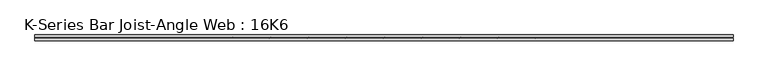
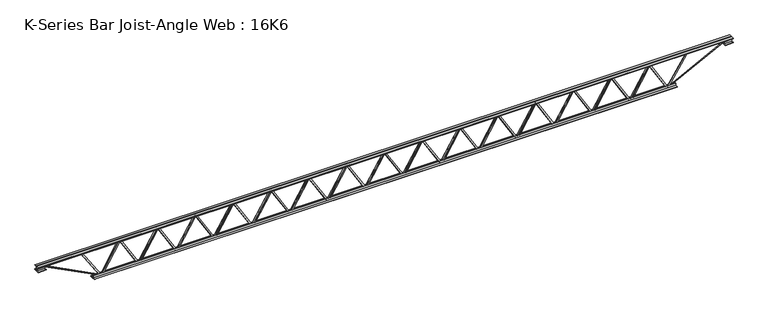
"""IFC4 building model written with IfcOpenShell, lengths in millimetres: beam geometry, K-Series Bar Joist-Angle Web : 16K6."""

from ifc_helpers import new_model, si_unit, frame, origin, place, context, project, spatial, polyline, outline, extrude, faceted_brep, source, transform, mapped, element, save


def k_series_bar_joist_angle_web_16k6_513a071d(model_context):
    return source(origin(), model_context, "Body", "SolidModel", [
        extrude(outline(polyline([(-4.75, 4.7625), (-4.75, 0.0), (-17.45, 0.0), (-17.45, 4.7625), (-4.75, 4.7625)])), frame((3089.537698, 0.0, -164.9), z_axis=(-0.5129581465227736, 0.0, 0.8584136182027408), x_axis=(0.0, -1.0, 0.0)), (0.0, 0.0, 1.0), 384.1970735),
        extrude(outline(polyline([(-199.825, 3122.1619048), (-180.775, 3122.1619048), (-180.775, 3121.2161453), (199.825, 2893.7828119), (199.825, 2875.6785714), (180.775, 2875.6785714), (180.775, 2882.9743309), (-199.825, 3110.4076642), (-199.825, 3122.1619048)])), frame((0.0, 0.0, 0.0), z_axis=(0.0, 1.0, 0.0), x_axis=(0.0, 0.0, 1.0)), (0.0, 0.0, 1.0), 4.75),
        faceted_brep([(2641.8952381, 0.0, -180.775), (2641.8952381, 0.0, -199.825), (2641.8952381, -4.75, -199.825), (2641.8952381, -4.75, -180.775), (2642.8409976, 0.0, -180.775), (2870.2743309, 0.0, 199.825), (2888.3785714, 0.0, 199.825), (2888.3785714, 0.0, 180.775), (2881.0828119, 0.0, 180.775), (2653.6494786, 0.0, -199.825), (2653.6494786, -4.75, -199.825), (2674.5194449, -4.75, -164.9), (2670.43125, -4.75, -162.4570368), (2867.5082688, -4.75, 167.3429632), (2871.5964636, -4.75, 164.9), (2881.0828119, -4.75, 180.775), (2888.3785714, -4.75, 180.775), (2888.3785714, -4.75, 199.825), (2870.2743309, -4.75, 199.825), (2642.8409976, -4.75, -180.775), (2871.5964636, -17.4625, 164.9), (2674.5194449, -17.4625, -164.9), (2670.43125, -17.4625, -162.4570368), (2867.5082688, -17.4625, 167.3429632)], [[[0, 1, 2, 3]], [[1, 0, 4, 5, 6, 7, 8, 9]], [[2, 1, 9, 10]], [[3, 2, 10, 11, 12, 13, 14, 15, 16, 17, 18, 19]], [[0, 3, 19, 4]], [[9, 8, 15, 14, 20, 21, 11, 10]], [[5, 4, 19, 18]], [[7, 6, 17, 16]], [[8, 7, 16, 15]], [[6, 5, 18, 17]], [[21, 22, 12, 11]], [[20, 14, 13, 23]], [[22, 21, 20, 23]], [[12, 22, 23, 13]]]),
        extrude(outline(polyline([(-4.75, 4.7625001), (-4.75, 0.0), (-17.45, 0.0), (-17.45, 4.7625001), (-4.75, 4.7625001)])), frame((2609.1996027, 0.0, -164.9), z_axis=(-0.5129581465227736, 0.0, 0.8584136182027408), x_axis=(0.0, -1.0, 0.0)), (0.0, 0.0, 1.0), 384.1970735),
        extrude(outline(polyline([(-199.825, 2641.8238095), (-180.775, 2641.8238095), (-180.775, 2640.87805), (199.825, 2413.4447167), (199.825, 2395.3404762), (180.775, 2395.3404762), (180.775, 2402.6362357), (-199.825, 2630.069569), (-199.825, 2641.8238095)])), frame((0.0, 0.0, 0.0), z_axis=(0.0, 1.0, 0.0), x_axis=(0.0, 0.0, 1.0)), (0.0, 0.0, 1.0), 4.75),
        faceted_brep([(2161.5571429, 0.0, -180.775), (2161.5571429, 0.0, -199.825), (2161.5571429, -4.75, -199.825), (2161.5571429, -4.75, -180.775), (2162.5029023, 0.0, -180.775), (2389.9362357, 0.0, 199.825), (2408.0404762, 0.0, 199.825), (2408.0404762, 0.0, 180.775), (2400.7447167, 0.0, 180.775), (2173.3113834, 0.0, -199.825), (2173.3113834, -4.75, -199.825), (2194.1813497, -4.75, -164.9), (2190.0931548, -4.75, -162.4570368), (2387.1701735, -4.75, 167.3429632), (2391.2583684, -4.75, 164.9), (2400.7447167, -4.75, 180.775), (2408.0404762, -4.75, 180.775), (2408.0404762, -4.75, 199.825), (2389.9362357, -4.75, 199.825), (2162.5029023, -4.75, -180.775), (2391.2583684, -17.4625, 164.9), (2194.1813497, -17.4625, -164.9), (2190.0931548, -17.4625, -162.4570368), (2387.1701735, -17.4625, 167.3429632)], [[[0, 1, 2, 3]], [[1, 0, 4, 5, 6, 7, 8, 9]], [[2, 1, 9, 10]], [[3, 2, 10, 11, 12, 13, 14, 15, 16, 17, 18, 19]], [[0, 3, 19, 4]], [[9, 8, 15, 14, 20, 21, 11, 10]], [[5, 4, 19, 18]], [[7, 6, 17, 16]], [[8, 7, 16, 15]], [[6, 5, 18, 17]], [[21, 22, 12, 11]], [[20, 14, 13, 23]], [[22, 21, 20, 23]], [[12, 22, 23, 13]]]),
        extrude(outline(polyline([(-4.75, 4.7625), (-4.75, 0.0), (-17.45, 0.0), (-17.45, 4.7625), (-4.75, 4.7625)])), frame((2128.8615075, 0.0, -164.9), z_axis=(-0.5129581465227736, 0.0, 0.8584136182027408), x_axis=(0.0, -1.0, 0.0)), (0.0, 0.0, 1.0), 384.1970735),
        extrude(outline(polyline([(-199.825, 2161.4857143), (-180.775, 2161.4857143), (-180.775, 2160.5399548), (199.825, 1933.1066215), (199.825, 1915.002381), (180.775, 1915.002381), (180.775, 1922.2981404), (-199.825, 2149.7314738), (-199.825, 2161.4857143)])), frame((0.0, 0.0, 0.0), z_axis=(0.0, 1.0, 0.0), x_axis=(0.0, 0.0, 1.0)), (0.0, 0.0, 1.0), 4.75),
        faceted_brep([(1681.2190476, 0.0, -180.775), (1681.2190476, 0.0, -199.825), (1681.2190476, -4.75, -199.825), (1681.2190476, -4.75, -180.775), (1682.1648071, 0.0, -180.775), (1909.5981404, 0.0, 199.825), (1927.702381, 0.0, 199.825), (1927.702381, 0.0, 180.775), (1920.4066215, 0.0, 180.775), (1692.9732881, 0.0, -199.825), (1692.9732881, -4.75, -199.825), (1713.8432544, -4.75, -164.9), (1709.7550596, -4.75, -162.4570368), (1906.8320783, -4.75, 167.3429632), (1910.9202732, -4.75, 164.9), (1920.4066215, -4.75, 180.775), (1927.702381, -4.75, 180.775), (1927.702381, -4.75, 199.825), (1909.5981404, -4.75, 199.825), (1682.1648071, -4.75, -180.775), (1910.9202732, -17.4625, 164.9), (1713.8432544, -17.4625, -164.9), (1709.7550596, -17.4625, -162.4570368), (1906.8320783, -17.4625, 167.3429632)], [[[0, 1, 2, 3]], [[1, 0, 4, 5, 6, 7, 8, 9]], [[2, 1, 9, 10]], [[3, 2, 10, 11, 12, 13, 14, 15, 16, 17, 18, 19]], [[0, 3, 19, 4]], [[9, 8, 15, 14, 20, 21, 11, 10]], [[5, 4, 19, 18]], [[7, 6, 17, 16]], [[8, 7, 16, 15]], [[6, 5, 18, 17]], [[21, 22, 12, 11]], [[20, 14, 13, 23]], [[22, 21, 20, 23]], [[12, 22, 23, 13]]]),
        extrude(outline(polyline([(-4.75, 4.7625), (-4.75, 0.0), (-17.45, 0.0), (-17.45, 4.7625), (-4.75, 4.7625)])), frame((1648.5234123, 0.0, -164.9), z_axis=(-0.5129581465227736, 0.0, 0.8584136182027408), x_axis=(0.0, -1.0, 0.0)), (0.0, 0.0, 1.0), 384.1970735),
        extrude(outline(polyline([(-199.825, 1681.147619), (-180.775, 1681.147619), (-180.775, 1680.2018596), (199.825, 1452.7685262), (199.825, 1434.6642857), (180.775, 1434.6642857), (180.775, 1441.9600452), (-199.825, 1669.3933785), (-199.825, 1681.147619)])), frame((0.0, 0.0, 0.0), z_axis=(0.0, 1.0, 0.0), x_axis=(0.0, 0.0, 1.0)), (0.0, 0.0, 1.0), 4.75),
        faceted_brep([(1200.8809524, 0.0, -180.775), (1200.8809524, 0.0, -199.825), (1200.8809524, -4.75, -199.825), (1200.8809524, -4.75, -180.775), (1201.8267119, 0.0, -180.775), (1429.2600452, 0.0, 199.825), (1447.3642857, 0.0, 199.825), (1447.3642857, 0.0, 180.775), (1440.0685262, 0.0, 180.775), (1212.6351929, 0.0, -199.825), (1212.6351929, -4.75, -199.825), (1233.5051592, -4.75, -164.9), (1229.4169643, -4.75, -162.4570368), (1426.4939831, -4.75, 167.3429632), (1430.5821779, -4.75, 164.9), (1440.0685262, -4.75, 180.775), (1447.3642857, -4.75, 180.775), (1447.3642857, -4.75, 199.825), (1429.2600452, -4.75, 199.825), (1201.8267119, -4.75, -180.775), (1430.5821779, -17.4625, 164.9), (1233.5051592, -17.4625, -164.9), (1229.4169643, -17.4625, -162.4570368), (1426.4939831, -17.4625, 167.3429632)], [[[0, 1, 2, 3]], [[1, 0, 4, 5, 6, 7, 8, 9]], [[2, 1, 9, 10]], [[3, 2, 10, 11, 12, 13, 14, 15, 16, 17, 18, 19]], [[0, 3, 19, 4]], [[9, 8, 15, 14, 20, 21, 11, 10]], [[5, 4, 19, 18]], [[7, 6, 17, 16]], [[8, 7, 16, 15]], [[6, 5, 18, 17]], [[21, 22, 12, 11]], [[20, 14, 13, 23]], [[22, 21, 20, 23]], [[12, 22, 23, 13]]]),
        extrude(outline(polyline([(-4.75, 4.7625001), (-4.75, 0.0), (-17.45, 0.0), (-17.45, 4.7625001), (-4.75, 4.7625001)])), frame((1168.185317, 0.0, -164.9), z_axis=(-0.5129581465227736, 0.0, 0.8584136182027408), x_axis=(0.0, -1.0, 0.0)), (0.0, 0.0, 1.0), 384.1970735),
        extrude(outline(polyline([(-199.825, 1200.8095238), (-180.775, 1200.8095238), (-180.775, 1199.8637643), (199.825, 972.430431), (199.825, 954.3261905), (180.775, 954.3261905), (180.775, 961.62195), (-199.825, 1189.0552833), (-199.825, 1200.8095238)])), frame((0.0, 0.0, 0.0), z_axis=(0.0, 1.0, 0.0), x_axis=(0.0, 0.0, 1.0)), (0.0, 0.0, 1.0), 4.75),
        faceted_brep([(720.5428571, 0.0, -180.775), (720.5428571, 0.0, -199.825), (720.5428571, -4.75, -199.825), (720.5428571, -4.75, -180.775), (721.4886166, 0.0, -180.775), (948.92195, 0.0, 199.825), (967.0261905, 0.0, 199.825), (967.0261905, 0.0, 180.775), (959.730431, 0.0, 180.775), (732.2970977, 0.0, -199.825), (732.2970977, -4.75, -199.825), (753.1670639, -4.75, -164.9), (749.0788691, -4.75, -162.4570368), (946.1558878, -4.75, 167.3429632), (950.2440827, -4.75, 164.9), (959.730431, -4.75, 180.775), (967.0261905, -4.75, 180.775), (967.0261905, -4.75, 199.825), (948.92195, -4.75, 199.825), (721.4886166, -4.75, -180.775), (950.2440827, -17.4625, 164.9), (753.1670639, -17.4625, -164.9), (749.0788691, -17.4625, -162.4570368), (946.1558878, -17.4625, 167.3429632)], [[[0, 1, 2, 3]], [[1, 0, 4, 5, 6, 7, 8, 9]], [[2, 1, 9, 10]], [[3, 2, 10, 11, 12, 13, 14, 15, 16, 17, 18, 19]], [[0, 3, 19, 4]], [[9, 8, 15, 14, 20, 21, 11, 10]], [[5, 4, 19, 18]], [[7, 6, 17, 16]], [[8, 7, 16, 15]], [[6, 5, 18, 17]], [[21, 22, 12, 11]], [[20, 14, 13, 23]], [[22, 21, 20, 23]], [[12, 22, 23, 13]]]),
        extrude(outline(polyline([(-4.75, 4.7625), (-4.75, 0.0), (-17.45, 0.0), (-17.45, 4.7625), (-4.75, 4.7625)])), frame((687.8472218, 0.0, -164.9), z_axis=(-0.5129581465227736, 0.0, 0.8584136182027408), x_axis=(0.0, -1.0, 0.0)), (0.0, 0.0, 1.0), 384.1970735),
        extrude(outline(polyline([(-199.825, 720.4714286), (-180.775, 720.4714286), (-180.775, 719.5256691), (199.825, 492.0923358), (199.825, 473.9880952), (180.775, 473.9880952), (180.775, 481.2838547), (-199.825, 708.7171881), (-199.825, 720.4714286)])), frame((0.0, 0.0, 0.0), z_axis=(0.0, 1.0, 0.0), x_axis=(0.0, 0.0, 1.0)), (0.0, 0.0, 1.0), 4.75),
        faceted_brep([(240.2047619, 0.0, -180.775), (240.2047619, 0.0, -199.825), (240.2047619, -4.75, -199.825), (240.2047619, -4.75, -180.775), (241.1505214, 0.0, -180.775), (468.5838547, 0.0, 199.825), (486.6880952, 0.0, 199.825), (486.6880952, 0.0, 180.775), (479.3923358, 0.0, 180.775), (251.9590024, 0.0, -199.825), (251.9590024, -4.75, -199.825), (272.8289687, -4.75, -164.9), (268.7407738, -4.75, -162.4570368), (465.8177926, -4.75, 167.3429632), (469.9059874, -4.75, 164.9), (479.3923358, -4.75, 180.775), (486.6880952, -4.75, 180.775), (486.6880952, -4.75, 199.825), (468.5838547, -4.75, 199.825), (241.1505214, -4.75, -180.775), (469.9059874, -17.4625, 164.9), (272.8289687, -17.4625, -164.9), (268.7407738, -17.4625, -162.4570368), (465.8177926, -17.4625, 167.3429632)], [[[0, 1, 2, 3]], [[1, 0, 4, 5, 6, 7, 8, 9]], [[2, 1, 9, 10]], [[3, 2, 10, 11, 12, 13, 14, 15, 16, 17, 18, 19]], [[0, 3, 19, 4]], [[9, 8, 15, 14, 20, 21, 11, 10]], [[5, 4, 19, 18]], [[7, 6, 17, 16]], [[8, 7, 16, 15]], [[6, 5, 18, 17]], [[21, 22, 12, 11]], [[20, 14, 13, 23]], [[22, 21, 20, 23]], [[12, 22, 23, 13]]]),
        extrude(outline(polyline([(-4.75, 4.7625001), (-4.75, 0.0), (-17.45, 0.0), (-17.45, 4.7625001), (-4.75, 4.7625001)])), frame((207.5091265, 0.0, -164.9), z_axis=(-0.5129581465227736, 0.0, 0.8584136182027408), x_axis=(0.0, -1.0, 0.0)), (0.0, 0.0, 1.0), 384.1970735),
        extrude(outline(polyline([(-199.825, 240.1333333), (-180.775, 240.1333333), (-180.775, 239.1875738), (199.825, 11.7542405), (199.825, -6.35), (180.775, -6.35), (180.775, 0.9457595), (-199.825, 228.3790928), (-199.825, 240.1333333)])), frame((0.0, 0.0, 0.0), z_axis=(0.0, 1.0, 0.0), x_axis=(0.0, 0.0, 1.0)), (0.0, 0.0, 1.0), 4.75),
        faceted_brep([(-240.1333333, 0.0, -180.775), (-240.1333333, 0.0, -199.825), (-240.1333333, -4.75, -199.825), (-240.1333333, -4.75, -180.775), (-239.1875738, 0.0, -180.775), (-11.7542405, 0.0, 199.825), (6.35, 0.0, 199.825), (6.35, 0.0, 180.775), (-0.9457595, 0.0, 180.775), (-228.3790928, 0.0, -199.825), (-228.3790928, -4.75, -199.825), (-207.5091265, -4.75, -164.9), (-211.5973214, -4.75, -162.4570368), (-14.5203027, -4.75, 167.3429632), (-10.4321078, -4.75, 164.9), (-0.9457595, -4.75, 180.775), (6.35, -4.75, 180.775), (6.35, -4.75, 199.825), (-11.7542405, -4.75, 199.825), (-239.1875738, -4.75, -180.775), (-10.4321078, -17.4625, 164.9), (-207.5091265, -17.4625, -164.9), (-211.5973214, -17.4625, -162.4570368), (-14.5203027, -17.4625, 167.3429632)], [[[0, 1, 2, 3]], [[1, 0, 4, 5, 6, 7, 8, 9]], [[2, 1, 9, 10]], [[3, 2, 10, 11, 12, 13, 14, 15, 16, 17, 18, 19]], [[0, 3, 19, 4]], [[9, 8, 15, 14, 20, 21, 11, 10]], [[5, 4, 19, 18]], [[7, 6, 17, 16]], [[8, 7, 16, 15]], [[6, 5, 18, 17]], [[21, 22, 12, 11]], [[20, 14, 13, 23]], [[22, 21, 20, 23]], [[12, 22, 23, 13]]]),
        extrude(outline(polyline([(-4.75, 4.7625001), (-4.75, 0.0), (-17.45, 0.0), (-17.45, 4.7625001), (-4.75, 4.7625001)])), frame((-272.8289687, 0.0, -164.9), z_axis=(-0.5129581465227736, 0.0, 0.8584136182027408), x_axis=(0.0, -1.0, 0.0)), (0.0, 0.0, 1.0), 384.1970735),
        extrude(outline(polyline([(-199.825, -240.2047619), (-180.775, -240.2047619), (-180.775, -241.1505214), (199.825, -468.5838547), (199.825, -486.6880952), (180.775, -486.6880952), (180.775, -479.3923358), (-199.825, -251.9590024), (-199.825, -240.2047619)])), frame((0.0, 0.0, 0.0), z_axis=(0.0, 1.0, 0.0), x_axis=(0.0, 0.0, 1.0)), (0.0, 0.0, 1.0), 4.75),
        faceted_brep([(-720.4714286, 0.0, -180.775), (-720.4714286, 0.0, -199.825), (-720.4714286, -4.75, -199.825), (-720.4714286, -4.75, -180.775), (-719.5256691, 0.0, -180.775), (-492.0923358, 0.0, 199.825), (-473.9880952, 0.0, 199.825), (-473.9880952, 0.0, 180.775), (-481.2838547, 0.0, 180.775), (-708.7171881, 0.0, -199.825), (-708.7171881, -4.75, -199.825), (-687.8472218, -4.75, -164.9), (-691.9354166, -4.75, -162.4570368), (-494.8583979, -4.75, 167.3429632), (-490.770203, -4.75, 164.9), (-481.2838547, -4.75, 180.775), (-473.9880952, -4.75, 180.775), (-473.9880952, -4.75, 199.825), (-492.0923358, -4.75, 199.825), (-719.5256691, -4.75, -180.775), (-490.770203, -17.4625, 164.9), (-687.8472218, -17.4625, -164.9), (-691.9354166, -17.4625, -162.4570368), (-494.8583979, -17.4625, 167.3429632)], [[[0, 1, 2, 3]], [[1, 0, 4, 5, 6, 7, 8, 9]], [[2, 1, 9, 10]], [[3, 2, 10, 11, 12, 13, 14, 15, 16, 17, 18, 19]], [[0, 3, 19, 4]], [[9, 8, 15, 14, 20, 21, 11, 10]], [[5, 4, 19, 18]], [[7, 6, 17, 16]], [[8, 7, 16, 15]], [[6, 5, 18, 17]], [[21, 22, 12, 11]], [[20, 14, 13, 23]], [[22, 21, 20, 23]], [[12, 22, 23, 13]]]),
        extrude(outline(polyline([(-4.75, 4.7625), (-4.75, 0.0), (-17.45, 0.0), (-17.45, 4.7625), (-4.75, 4.7625)])), frame((-753.1670639, 0.0, -164.9), z_axis=(-0.5129581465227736, 0.0, 0.8584136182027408), x_axis=(0.0, -1.0, 0.0)), (0.0, 0.0, 1.0), 384.1970735),
        extrude(outline(polyline([(-199.825, -720.5428571), (-180.775, -720.5428571), (-180.775, -721.4886166), (199.825, -948.92195), (199.825, -967.0261905), (180.775, -967.0261905), (180.775, -959.730431), (-199.825, -732.2970977), (-199.825, -720.5428571)])), frame((0.0, 0.0, 0.0), z_axis=(0.0, 1.0, 0.0), x_axis=(0.0, 0.0, 1.0)), (0.0, 0.0, 1.0), 4.75),
        faceted_brep([(-1200.8095238, 0.0, -180.775), (-1200.8095238, 0.0, -199.825), (-1200.8095238, -4.75, -199.825), (-1200.8095238, -4.75, -180.775), (-1199.8637643, 0.0, -180.775), (-972.430431, 0.0, 199.825), (-954.3261905, 0.0, 199.825), (-954.3261905, 0.0, 180.775), (-961.62195, 0.0, 180.775), (-1189.0552833, 0.0, -199.825), (-1189.0552833, -4.75, -199.825), (-1168.185317, -4.75, -164.9), (-1172.2735119, -4.75, -162.4570368), (-975.1964931, -4.75, 167.3429632), (-971.1082983, -4.75, 164.9), (-961.62195, -4.75, 180.775), (-954.3261905, -4.75, 180.775), (-954.3261905, -4.75, 199.825), (-972.430431, -4.75, 199.825), (-1199.8637643, -4.75, -180.775), (-971.1082983, -17.4625, 164.9), (-1168.185317, -17.4625, -164.9), (-1172.2735119, -17.4625, -162.4570368), (-975.1964931, -17.4625, 167.3429632)], [[[0, 1, 2, 3]], [[1, 0, 4, 5, 6, 7, 8, 9]], [[2, 1, 9, 10]], [[3, 2, 10, 11, 12, 13, 14, 15, 16, 17, 18, 19]], [[0, 3, 19, 4]], [[9, 8, 15, 14, 20, 21, 11, 10]], [[5, 4, 19, 18]], [[7, 6, 17, 16]], [[8, 7, 16, 15]], [[6, 5, 18, 17]], [[21, 22, 12, 11]], [[20, 14, 13, 23]], [[22, 21, 20, 23]], [[12, 22, 23, 13]]]),
        extrude(outline(polyline([(-4.75, 4.7625001), (-4.75, 0.0), (-17.45, 0.0), (-17.45, 4.7625001), (-4.75, 4.7625001)])), frame((-1233.5051592, 0.0, -164.9), z_axis=(-0.5129581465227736, 0.0, 0.8584136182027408), x_axis=(0.0, -1.0, 0.0)), (0.0, 0.0, 1.0), 384.1970735),
        extrude(outline(polyline([(-199.825, -1200.8809524), (-180.775, -1200.8809524), (-180.775, -1201.8267119), (199.825, -1429.2600452), (199.825, -1447.3642857), (180.775, -1447.3642857), (180.775, -1440.0685262), (-199.825, -1212.6351929), (-199.825, -1200.8809524)])), frame((0.0, 0.0, 0.0), z_axis=(0.0, 1.0, 0.0), x_axis=(0.0, 0.0, 1.0)), (0.0, 0.0, 1.0), 4.75),
        faceted_brep([(-1681.147619, 0.0, -180.775), (-1681.147619, 0.0, -199.825), (-1681.147619, -4.75, -199.825), (-1681.147619, -4.75, -180.775), (-1680.2018596, 0.0, -180.775), (-1452.7685262, 0.0, 199.825), (-1434.6642857, 0.0, 199.825), (-1434.6642857, 0.0, 180.775), (-1441.9600452, 0.0, 180.775), (-1669.3933785, 0.0, -199.825), (-1669.3933785, -4.75, -199.825), (-1648.5234123, -4.75, -164.9), (-1652.6116071, -4.75, -162.4570368), (-1455.5345884, -4.75, 167.3429632), (-1451.4463935, -4.75, 164.9), (-1441.9600452, -4.75, 180.775), (-1434.6642857, -4.75, 180.775), (-1434.6642857, -4.75, 199.825), (-1452.7685262, -4.75, 199.825), (-1680.2018596, -4.75, -180.775), (-1451.4463935, -17.4625, 164.9), (-1648.5234123, -17.4625, -164.9), (-1652.6116071, -17.4625, -162.4570368), (-1455.5345884, -17.4625, 167.3429632)], [[[0, 1, 2, 3]], [[1, 0, 4, 5, 6, 7, 8, 9]], [[2, 1, 9, 10]], [[3, 2, 10, 11, 12, 13, 14, 15, 16, 17, 18, 19]], [[0, 3, 19, 4]], [[9, 8, 15, 14, 20, 21, 11, 10]], [[5, 4, 19, 18]], [[7, 6, 17, 16]], [[8, 7, 16, 15]], [[6, 5, 18, 17]], [[21, 22, 12, 11]], [[20, 14, 13, 23]], [[22, 21, 20, 23]], [[12, 22, 23, 13]]]),
        extrude(outline(polyline([(-4.75, 4.7625), (-4.75, 0.0), (-17.45, 0.0), (-17.45, 4.7625), (-4.75, 4.7625)])), frame((-1713.8432544, 0.0, -164.9), z_axis=(-0.5129581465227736, 0.0, 0.8584136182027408), x_axis=(0.0, -1.0, 0.0)), (0.0, 0.0, 1.0), 384.1970735),
        extrude(outline(polyline([(-199.825, -1681.2190476), (-180.775, -1681.2190476), (-180.775, -1682.1648071), (199.825, -1909.5981404), (199.825, -1927.702381), (180.775, -1927.702381), (180.775, -1920.4066215), (-199.825, -1692.9732881), (-199.825, -1681.2190476)])), frame((0.0, 0.0, 0.0), z_axis=(0.0, 1.0, 0.0), x_axis=(0.0, 0.0, 1.0)), (0.0, 0.0, 1.0), 4.75),
        faceted_brep([(-2161.4857143, 0.0, -180.775), (-2161.4857143, 0.0, -199.825), (-2161.4857143, -4.75, -199.825), (-2161.4857143, -4.75, -180.775), (-2160.5399548, 0.0, -180.775), (-1933.1066215, 0.0, 199.825), (-1915.002381, 0.0, 199.825), (-1915.002381, 0.0, 180.775), (-1922.2981404, 0.0, 180.775), (-2149.7314738, 0.0, -199.825), (-2149.7314738, -4.75, -199.825), (-2128.8615075, -4.75, -164.9), (-2132.9497023, -4.75, -162.4570368), (-1935.8726836, -4.75, 167.3429632), (-1931.7844887, -4.75, 164.9), (-1922.2981404, -4.75, 180.775), (-1915.002381, -4.75, 180.775), (-1915.002381, -4.75, 199.825), (-1933.1066215, -4.75, 199.825), (-2160.5399548, -4.75, -180.775), (-1931.7844887, -17.4625, 164.9), (-2128.8615075, -17.4625, -164.9), (-2132.9497023, -17.4625, -162.4570368), (-1935.8726836, -17.4625, 167.3429632)], [[[0, 1, 2, 3]], [[1, 0, 4, 5, 6, 7, 8, 9]], [[2, 1, 9, 10]], [[3, 2, 10, 11, 12, 13, 14, 15, 16, 17, 18, 19]], [[0, 3, 19, 4]], [[9, 8, 15, 14, 20, 21, 11, 10]], [[5, 4, 19, 18]], [[7, 6, 17, 16]], [[8, 7, 16, 15]], [[6, 5, 18, 17]], [[21, 22, 12, 11]], [[20, 14, 13, 23]], [[22, 21, 20, 23]], [[12, 22, 23, 13]]]),
        extrude(outline(polyline([(-4.75, 4.7625001), (-4.75, 0.0), (-17.45, 0.0), (-17.45, 4.7625001), (-4.75, 4.7625001)])), frame((-2194.1813497, 0.0, -164.9), z_axis=(-0.5129581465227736, 0.0, 0.8584136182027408), x_axis=(0.0, -1.0, 0.0)), (0.0, 0.0, 1.0), 384.1970735),
        extrude(outline(polyline([(-199.825, -2161.5571429), (-180.775, -2161.5571429), (-180.775, -2162.5029023), (199.825, -2389.9362357), (199.825, -2408.0404762), (180.775, -2408.0404762), (180.775, -2400.7447167), (-199.825, -2173.3113834), (-199.825, -2161.5571429)])), frame((0.0, 0.0, 0.0), z_axis=(0.0, 1.0, 0.0), x_axis=(0.0, 0.0, 1.0)), (0.0, 0.0, 1.0), 4.75),
        faceted_brep([(-2641.8238095, 0.0, -180.775), (-2641.8238095, 0.0, -199.825), (-2641.8238095, -4.75, -199.825), (-2641.8238095, -4.75, -180.775), (-2640.87805, 0.0, -180.775), (-2413.4447167, 0.0, 199.825), (-2395.3404762, 0.0, 199.825), (-2395.3404762, 0.0, 180.775), (-2402.6362357, 0.0, 180.775), (-2630.069569, 0.0, -199.825), (-2630.069569, -4.75, -199.825), (-2609.1996027, -4.75, -164.9), (-2613.2877976, -4.75, -162.4570368), (-2416.2107788, -4.75, 167.3429632), (-2412.122584, -4.75, 164.9), (-2402.6362357, -4.75, 180.775), (-2395.3404762, -4.75, 180.775), (-2395.3404762, -4.75, 199.825), (-2413.4447167, -4.75, 199.825), (-2640.87805, -4.75, -180.775), (-2412.122584, -17.4625, 164.9), (-2609.1996027, -17.4625, -164.9), (-2613.2877976, -17.4625, -162.4570368), (-2416.2107788, -17.4625, 167.3429632)], [[[0, 1, 2, 3]], [[1, 0, 4, 5, 6, 7, 8, 9]], [[2, 1, 9, 10]], [[3, 2, 10, 11, 12, 13, 14, 15, 16, 17, 18, 19]], [[0, 3, 19, 4]], [[9, 8, 15, 14, 20, 21, 11, 10]], [[5, 4, 19, 18]], [[7, 6, 17, 16]], [[8, 7, 16, 15]], [[6, 5, 18, 17]], [[21, 22, 12, 11]], [[20, 14, 13, 23]], [[22, 21, 20, 23]], [[12, 22, 23, 13]]]),
        extrude(outline(polyline([(-4.75, 4.7625001), (-4.75, 0.0), (-17.45, 0.0), (-17.45, 4.7625001), (-4.75, 4.7625001)])), frame((-2674.5194449, 0.0, -164.9), z_axis=(-0.5129581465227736, 0.0, 0.8584136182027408), x_axis=(0.0, -1.0, 0.0)), (0.0, 0.0, 1.0), 384.1970735),
        extrude(outline(polyline([(-199.825, -2641.8952381), (-180.775, -2641.8952381), (-180.775, -2642.8409976), (199.825, -2870.2743309), (199.825, -2888.3785714), (180.775, -2888.3785714), (180.775, -2881.0828119), (-199.825, -2653.6494786), (-199.825, -2641.8952381)])), frame((0.0, 0.0, 0.0), z_axis=(0.0, 1.0, 0.0), x_axis=(0.0, 0.0, 1.0)), (0.0, 0.0, 1.0), 4.75),
        faceted_brep([(-3122.1619048, 0.0, -180.775), (-3122.1619048, 0.0, -199.825), (-3122.1619048, -4.75, -199.825), (-3122.1619048, -4.75, -180.775), (-3121.2161453, 0.0, -180.775), (-2893.7828119, 0.0, 199.825), (-2875.6785714, 0.0, 199.825), (-2875.6785714, 0.0, 180.775), (-2882.9743309, 0.0, 180.775), (-3110.4076642, 0.0, -199.825), (-3110.4076642, -4.75, -199.825), (-3089.537698, -4.75, -164.9), (-3093.6258928, -4.75, -162.4570368), (-2896.5488741, -4.75, 167.3429632), (-2892.4606792, -4.75, 164.9), (-2882.9743309, -4.75, 180.775), (-2875.6785714, -4.75, 180.775), (-2875.6785714, -4.75, 199.825), (-2893.7828119, -4.75, 199.825), (-3121.2161453, -4.75, -180.775), (-2892.4606792, -17.4625, 164.9), (-3089.537698, -17.4625, -164.9), (-3093.6258928, -17.4625, -162.4570368), (-2896.5488741, -17.4625, 167.3429632)], [[[0, 1, 2, 3]], [[1, 0, 4, 5, 6, 7, 8, 9]], [[2, 1, 9, 10]], [[3, 2, 10, 11, 12, 13, 14, 15, 16, 17, 18, 19]], [[0, 3, 19, 4]], [[9, 8, 15, 14, 20, 21, 11, 10]], [[5, 4, 19, 18]], [[7, 6, 17, 16]], [[8, 7, 16, 15]], [[6, 5, 18, 17]], [[21, 22, 12, 11]], [[20, 14, 13, 23]], [[22, 21, 20, 23]], [[12, 22, 23, 13]]]),
        extrude(outline(polyline([(-4.75, 4.7625001), (-4.75, 0.0), (-17.45, 0.0), (-17.45, 4.7625001), (-4.75, 4.7625001)])), frame((3569.8757932, 0.0, -164.9), z_axis=(-0.5129581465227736, 0.0, 0.8584136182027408), x_axis=(0.0, -1.0, 0.0)), (0.0, 0.0, 1.0), 384.1970735),
        extrude(outline(polyline([(-199.825, 3602.5), (-180.775, 3602.5), (-180.775, 3601.5542405), (199.825, 3374.1209072), (199.825, 3356.0166667), (180.775, 3356.0166667), (180.775, 3363.3124262), (-199.825, 3590.7457595), (-199.825, 3602.5)])), frame((0.0, 0.0, 0.0), z_axis=(0.0, 1.0, 0.0), x_axis=(0.0, 0.0, 1.0)), (0.0, 0.0, 1.0), 4.75),
        faceted_brep([(3122.2333333, 0.0, -180.775), (3122.2333333, 0.0, -199.825), (3122.2333333, -4.75, -199.825), (3122.2333333, -4.75, -180.775), (3123.1790928, 0.0, -180.775), (3350.6124262, 0.0, 199.825), (3368.7166667, 0.0, 199.825), (3368.7166667, 0.0, 180.775), (3361.4209072, 0.0, 180.775), (3133.9875738, 0.0, -199.825), (3133.9875738, -4.75, -199.825), (3154.8575401, -4.75, -164.9), (3150.7693453, -4.75, -162.4570368), (3347.846364, -4.75, 167.3429632), (3351.9345589, -4.75, 164.9), (3361.4209072, -4.75, 180.775), (3368.7166667, -4.75, 180.775), (3368.7166667, -4.75, 199.825), (3350.6124262, -4.75, 199.825), (3123.1790928, -4.75, -180.775), (3351.9345589, -17.4625, 164.9), (3154.8575401, -17.4625, -164.9), (3150.7693453, -17.4625, -162.4570368), (3347.846364, -17.4625, 167.3429632)], [[[0, 1, 2, 3]], [[1, 0, 4, 5, 6, 7, 8, 9]], [[2, 1, 9, 10]], [[3, 2, 10, 11, 12, 13, 14, 15, 16, 17, 18, 19]], [[0, 3, 19, 4]], [[9, 8, 15, 14, 20, 21, 11, 10]], [[5, 4, 19, 18]], [[7, 6, 17, 16]], [[8, 7, 16, 15]], [[6, 5, 18, 17]], [[21, 22, 12, 11]], [[20, 14, 13, 23]], [[22, 21, 20, 23]], [[12, 22, 23, 13]]]),
        extrude(outline(polyline([(-4.75, 4.7625), (-4.75, 0.0), (-17.45, 0.0), (-17.45, 4.7625), (-4.75, 4.7625)])), frame((-3154.8575401, 0.0, -164.9), z_axis=(-0.5129581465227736, 0.0, 0.8584136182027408), x_axis=(0.0, -1.0, 0.0)), (0.0, 0.0, 1.0), 384.1970735),
        extrude(outline(polyline([(-199.825, -3122.2333333), (-180.775, -3122.2333333), (-180.775, -3123.1790928), (199.825, -3350.6124262), (199.825, -3368.7166667), (180.775, -3368.7166667), (180.775, -3361.4209072), (-199.825, -3133.9875738), (-199.825, -3122.2333333)])), frame((0.0, 0.0, 0.0), z_axis=(0.0, 1.0, 0.0), x_axis=(0.0, 0.0, 1.0)), (0.0, 0.0, 1.0), 4.75),
        faceted_brep([(-3602.5, 0.0, -180.775), (-3602.5, 0.0, -199.825), (-3602.5, -4.75, -199.825), (-3602.5, -4.75, -180.775), (-3601.5542405, 0.0, -180.775), (-3374.1209072, 0.0, 199.825), (-3356.0166667, 0.0, 199.825), (-3356.0166667, 0.0, 180.775), (-3363.3124262, 0.0, 180.775), (-3590.7457595, 0.0, -199.825), (-3590.7457595, -4.75, -199.825), (-3569.8757932, -4.75, -164.9), (-3573.9639881, -4.75, -162.4570368), (-3376.8869693, -4.75, 167.3429632), (-3372.7987745, -4.75, 164.9), (-3363.3124262, -4.75, 180.775), (-3356.0166667, -4.75, 180.775), (-3356.0166667, -4.75, 199.825), (-3374.1209072, -4.75, 199.825), (-3601.5542405, -4.75, -180.775), (-3372.7987745, -17.4625, 164.9), (-3569.8757932, -17.4625, -164.9), (-3573.9639881, -17.4625, -162.4570368), (-3376.8869693, -17.4625, 167.3429632)], [[[0, 1, 2, 3]], [[1, 0, 4, 5, 6, 7, 8, 9]], [[2, 1, 9, 10]], [[3, 2, 10, 11, 12, 13, 14, 15, 16, 17, 18, 19]], [[0, 3, 19, 4]], [[9, 8, 15, 14, 20, 21, 11, 10]], [[5, 4, 19, 18]], [[7, 6, 17, 16]], [[8, 7, 16, 15]], [[6, 5, 18, 17]], [[21, 22, 12, 11]], [[20, 14, 13, 23]], [[22, 21, 20, 23]], [[12, 22, 23, 13]]]),
        extrude(outline(polyline([(4.75, 203.0), (36.75, 203.0), (36.75, 196.5), (11.25, 196.5), (11.25, 171.0), (4.75, 171.0), (4.75, 203.0)])), frame((-4414.5, 0.0, 0.0), z_axis=(1.0, 0.0, 0.0), x_axis=(0.0, 1.0, 0.0)), (0.0, 0.0, 1.0), 8829.0),
        extrude(outline(polyline([(-4.75, 203.0), (-4.75, 171.0), (-11.25, 171.0), (-11.25, 196.5), (-36.75, 196.5), (-36.75, 203.0), (-4.75, 203.0)])), frame((-4414.5, 0.0, 0.0), z_axis=(1.0, 0.0, 0.0), x_axis=(0.0, 1.0, 0.0)), (0.0, 0.0, 1.0), 8829.0),
        extrude(outline(polyline([(4.75, -203.0), (4.75, -171.0), (11.25, -171.0), (11.25, -196.5), (36.75, -196.5), (36.75, -203.0), (4.75, -203.0)])), frame((-3702.5, 0.0, 0.0), z_axis=(1.0, 0.0, 0.0), x_axis=(0.0, 1.0, 0.0)), (0.0, 0.0, 1.0), 7405.0),
        extrude(outline(polyline([(-4.75, -203.0), (-36.75, -203.0), (-36.75, -196.5), (-11.25, -196.5), (-11.25, -171.0), (-4.75, -171.0), (-4.75, -203.0)])), frame((-3702.5, 0.0, 0.0), z_axis=(1.0, 0.0, 0.0), x_axis=(0.0, 1.0, 0.0)), (0.0, 0.0, 1.0), 7405.0),
        extrude(outline(polyline([(4.75, 139.5), (4.75, 171.0), (11.25, 171.0), (11.25, 146.0), (36.75, 146.0), (36.75, 139.5), (4.75, 139.5)])), frame((4314.5, 0.0, 0.0), z_axis=(1.0, 0.0, 0.0), x_axis=(0.0, 1.0, 0.0)), (0.0, 0.0, 1.0), 100.0),
        extrude(outline(polyline([(-4.75, 139.5), (-36.75, 139.5), (-36.75, 146.0), (-11.25, 146.0), (-11.25, 171.0), (-4.75, 171.0), (-4.75, 139.5)])), frame((4314.5, 0.0, 0.0), z_axis=(1.0, 0.0, 0.0), x_axis=(0.0, 1.0, 0.0)), (0.0, 0.0, 1.0), 100.0),
        extrude(outline(polyline([(-4.75, 139.5), (-36.75, 139.5), (-36.75, 146.0), (-11.25, 146.0), (-11.25, 171.0), (-4.75, 171.0), (-4.75, 139.5)])), frame((-4414.5, 0.0, 0.0), z_axis=(1.0, 0.0, 0.0), x_axis=(0.0, 1.0, 0.0)), (0.0, 0.0, 1.0), 100.0),
        extrude(outline(polyline([(36.75, 139.5), (4.75, 139.5), (4.75, 171.0), (11.25, 171.0), (11.25, 146.0), (36.75, 146.0), (36.75, 139.5)])), frame((-4414.5, 0.0, 0.0), z_axis=(1.0, 0.0, 0.0), x_axis=(0.0, 1.0, 0.0)), (0.0, 0.0, 1.0), 100.0),
        extrude(outline(polyline([(193.9566712, -3862.5904762), (174.9066712, -3862.5904762), (174.9066712, -3854.7981594), (-201.5785155, -3610.082317), (-191.1964734, -3594.1099752), (193.9566712, -3844.4600011), (193.9566712, -3862.5904762)])), frame((0.0, 0.0, 0.0), z_axis=(0.0, 1.0, 0.0), x_axis=(0.0, 0.0, 1.0)), (0.0, 0.0, 1.0), 4.7625),
        extrude(outline(polyline([(-4.7625, -10.5646146), (-4.7625, 8.4853853), (0.0, 8.4853853), (0.0, -10.5646146), (-4.7625, -10.5646146)])), frame((3602.5, 0.0, -196.65), z_axis=(0.5468453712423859, 0.0, 0.8372336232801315), x_axis=(0.0, -1.0, 0.0)), (0.0, 0.0, 1.0), 439.1247434),
        extrude(outline(polyline([(-200.8705467, -3604.6793315), (-192.4294533, -3600.3206685), (175.75, -4313.3460208), (175.75, -4414.5), (166.25, -4414.5), (166.25, -4315.6539792), (-200.8705467, -3604.6793315)])), frame((0.0, -4.75, 0.0), z_axis=(0.0, 1.0, 0.0), x_axis=(0.0, 0.0, 1.0)), (0.0, 0.0, 1.0), 9.5),
        extrude(outline(polyline([(0.0, -9.5), (0.0, 0.0), (801.3179909, 0.0), (801.3179909, -9.5), (0.0, -9.5)])), frame((4316.6793315, -4.75, 166.7794533), z_axis=(-0.4588066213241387, 0.0, 0.8885361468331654), x_axis=(-0.8885361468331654, 0.0, -0.4588066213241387)), (0.0, 0.0, 1.0), 9.5),
    ])


if __name__ == "__main__":
    model = new_model("IFC4")
    model_context = context("Model", 3, world=origin())
    ifc_project = project(units=[si_unit("LENGTHUNIT", "METRE", prefix="MILLI")], contexts=[model_context])
    site = spatial("IfcSite", under=ifc_project)
    building = spatial("IfcBuilding", under=site)
    placement = place(None, origin())
    k_series_bar_joist_angle_web_16k6_shape = k_series_bar_joist_angle_web_16k6_513a071d(model_context)
    element("IfcBeam", 1, ObjectType="K-Series Bar Joist-Angle Web : 16K6", at=placement, inside=building, context=model_context, shape_type="MappedRepresentation", body=[
        mapped(k_series_bar_joist_angle_web_16k6_shape, transform((0.0, 0.0, 0.0), x_axis=(1.0, 0.0, 0.0), y_axis=(0.0, 1.0, 0.0), z_axis=(0.0, 0.0, 1.0))),
    ])
    save(model, "model.ifc")
